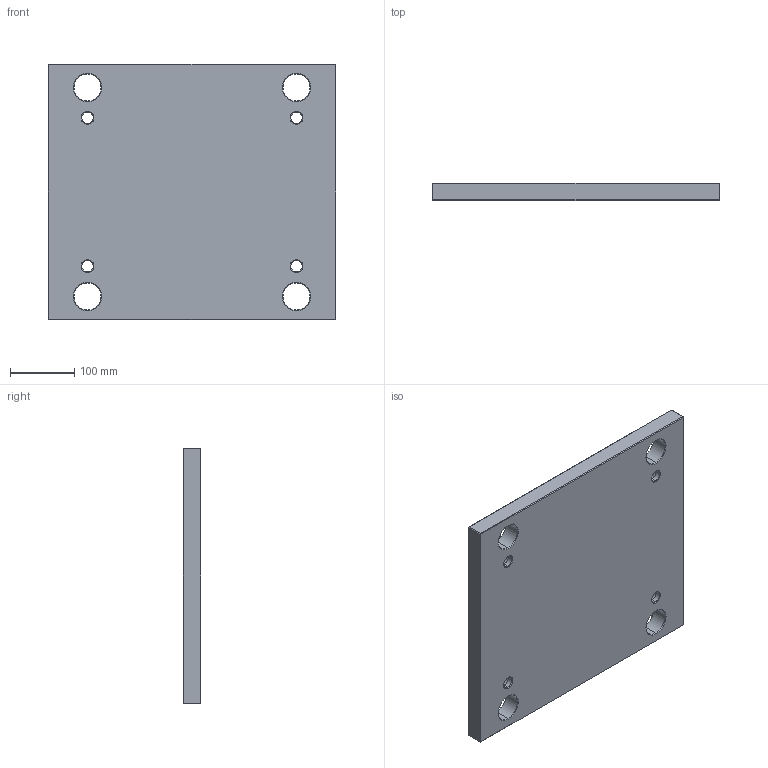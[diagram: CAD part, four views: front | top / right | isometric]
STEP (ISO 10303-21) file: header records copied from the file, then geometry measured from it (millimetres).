
FILE_DESCRIPTION (( 'STEP AP214' ), '1' );
FILE_NAME ('PBA-EU-396x396x27.STEP', '2020-03-10T16:00:06', ( 'August' ), ( '' ), 'SwSTEP 2.0', 'SolidWorks 2018', '' );
FILE_SCHEMA (( 'AUTOMOTIVE_DESIGN' ));
Length unit declared in the file: millimetre
Products named in the file (1): PBA-EU-396x396x27
Bounding box: 446 x 27 x 396 mm (x, y, z)
Volume: 4569062.8 mm3; surface area: 404787.2 mm2
Topology: 1 solids, 1 shells, 86 faces, 184 edges, 104 vertices
Faces by surface type: cone 32, plane 30, cylinder 24
Entity records: 2346 total; most frequent: DIRECTION 438, CARTESIAN_POINT 375, ORIENTED_EDGE 368, EDGE_CURVE 184, AXIS2_PLACEMENT_3D 167, EDGE_LOOP 106, LINE 104, VECTOR 104
